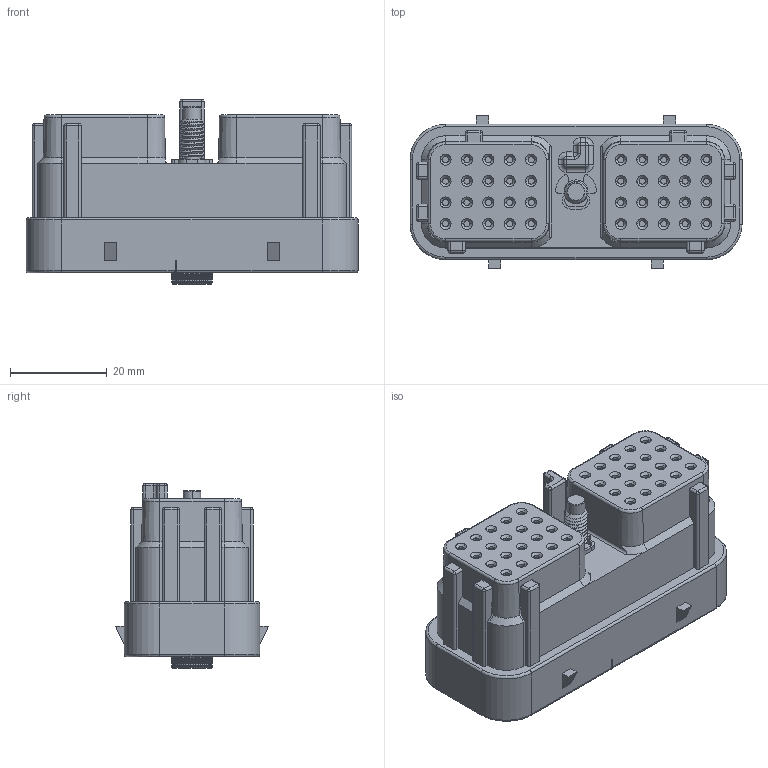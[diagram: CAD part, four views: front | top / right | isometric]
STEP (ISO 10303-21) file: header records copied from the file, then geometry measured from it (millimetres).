
FILE_DESCRIPTION((''),'2;1');
FILE_NAME('C-DRC26-40SA','2013-01-14T',('workeradm'),('Tyco Electronics Ltd.'),'PRO/ENGINEER BY PARAMETRIC TECHNOLOGY CORPORATION, 2010430','PRO/ENGINEER BY PARAMETRIC TECHNOLOGY CORPORATION, 2010430','');
FILE_SCHEMA(('AUTOMOTIVE_DESIGN { 1 0 10303 214 1 1 1 1 }'));
Length unit declared in the file: millimetre
Products named in the file (1): C-DRC26-40SA
Bounding box: 68.58 x 31.6 x 38.21 mm (x, y, z)
Volume: 48008.2 mm3; surface area: 11243.3 mm2
Topology: 1 solids, 1 shells, 1206 faces, 2891 edges, 1824 vertices
Faces by surface type: plane 594, cylinder 298, torus 188, cone 98, sphere 16, bspline 12
Entity records: 45998 total; most frequent: CARTESIAN_POINT 8425, DIRECTION 6231, ORIENTED_EDGE 5772, PRESENTATION_STYLE_ASSIGNMENT 2887, STYLED_ITEM 2887, CURVE_STYLE 2886, EDGE_CURVE 2886, AXIS2_PLACEMENT_3D 2345
